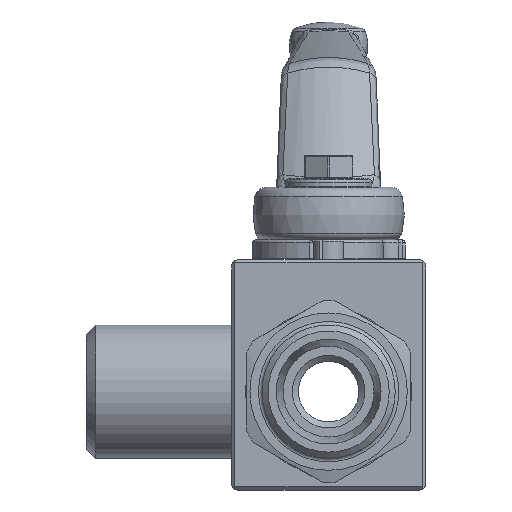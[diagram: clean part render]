
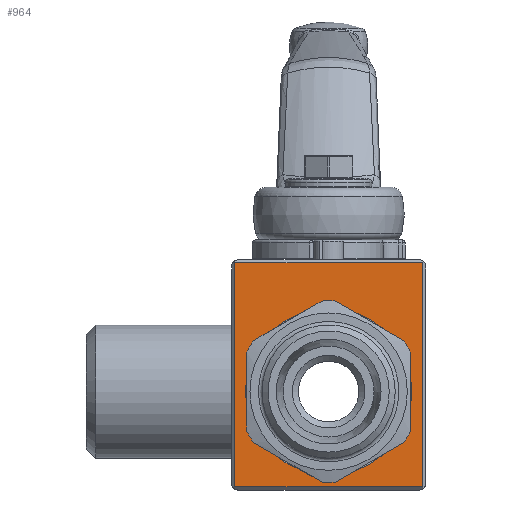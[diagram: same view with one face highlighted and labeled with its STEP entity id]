
A CAD part, front view. The second image highlights one B-rep face of the part: STEP entity #964.
In plain terms, the highlighted planar face has unit normal (0, -1, 0).
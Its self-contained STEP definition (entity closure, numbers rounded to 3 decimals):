
#964 = ADVANCED_FACE( '', ( #2039, #2040 ), #2041, .T. );
#2039 = FACE_OUTER_BOUND( '', #3701, .T. );
#2040 = FACE_BOUND( '', #3702, .T. );
#2041 = PLANE( '', #3703 );
#3701 = EDGE_LOOP( '', ( #6642, #6643, #6644, #6645 ) );
#3702 = EDGE_LOOP( '', ( #6646 ) );
#3703 = AXIS2_PLACEMENT_3D( '', #6647, #6648, #6649 );
#6642 = ORIENTED_EDGE( '', *, *, #9040, .T. );
#6643 = ORIENTED_EDGE( '', *, *, #8972, .T. );
#6644 = ORIENTED_EDGE( '', *, *, #8977, .T. );
#6645 = ORIENTED_EDGE( '', *, *, #8397, .T. );
#6646 = ORIENTED_EDGE( '', *, *, #8643, .T. );
#6647 = CARTESIAN_POINT( '', ( -16., -21.6, -16.25 ) );
#6648 = DIRECTION( '', ( 0., -1., 0. ) );
#6649 = DIRECTION( '', ( 0., 0., -1. ) );
#8397 = EDGE_CURVE( '', #9762, #9760, #9763, .T. );
#8643 = EDGE_CURVE( '', #10169, #10169, #10170, .T. );
#8972 = EDGE_CURVE( '', #10646, #10644, #10647, .T. );
#8977 = EDGE_CURVE( '', #10644, #9762, #10653, .T. );
#9040 = EDGE_CURVE( '', #9760, #10646, #10742, .T. );
#9760 = VERTEX_POINT( '', #11810 );
#9762 = VERTEX_POINT( '', #11813 );
#9763 = LINE( '', #11814, #11815 );
#10169 = VERTEX_POINT( '', #12667 );
#10170 = CIRCLE( '', #12668, 13.75 );
#10644 = VERTEX_POINT( '', #13447 );
#10646 = VERTEX_POINT( '', #13450 );
#10647 = LINE( '', #13451, #13452 );
#10653 = LINE( '', #13459, #13460 );
#10742 = LINE( '', #13628, #13629 );
#11810 = CARTESIAN_POINT( '', ( -15.5, -21.6, -15.75 ) );
#11813 = CARTESIAN_POINT( '', ( -15.5, -21.6, 21.25 ) );
#11814 = CARTESIAN_POINT( '', ( -15.5, -21.6, -16.25 ) );
#11815 = VECTOR( '', #14858, 1000. );
#12667 = CARTESIAN_POINT( '', ( 13.75, -21.6, 0. ) );
#12668 = AXIS2_PLACEMENT_3D( '', #15214, #15215, #15216 );
#13447 = CARTESIAN_POINT( '', ( 15.5, -21.6, 21.25 ) );
#13450 = CARTESIAN_POINT( '', ( 15.5, -21.6, -15.75 ) );
#13451 = CARTESIAN_POINT( '', ( 15.5, -21.6, 21.75 ) );
#13452 = VECTOR( '', #15645, 1000. );
#13459 = CARTESIAN_POINT( '', ( -16., -21.6, 21.25 ) );
#13460 = VECTOR( '', #15653, 1000. );
#13628 = CARTESIAN_POINT( '', ( 16., -21.6, -15.75 ) );
#13629 = VECTOR( '', #15747, 1000. );
#14858 = DIRECTION( '', ( 0., 0., -1. ) );
#15214 = CARTESIAN_POINT( '', ( 0., -21.6, 0. ) );
#15215 = DIRECTION( '', ( 0., 1., 0. ) );
#15216 = DIRECTION( '', ( 1., 0., 0. ) );
#15645 = DIRECTION( '', ( 0., 0., 1. ) );
#15653 = DIRECTION( '', ( -1., 0., 0. ) );
#15747 = DIRECTION( '', ( 1., 0., 0. ) );
